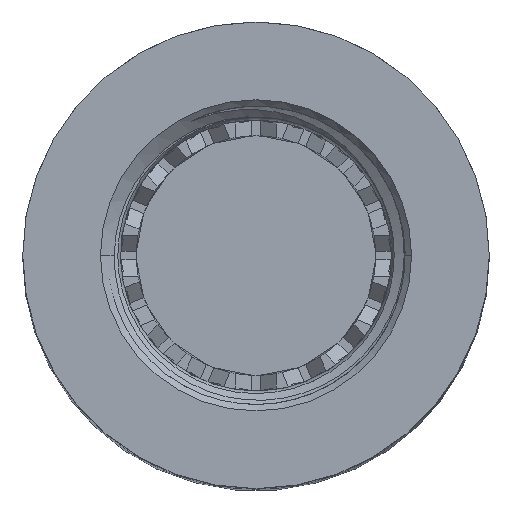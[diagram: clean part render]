
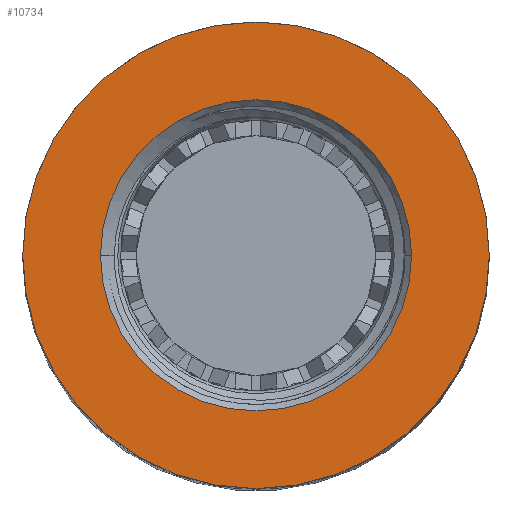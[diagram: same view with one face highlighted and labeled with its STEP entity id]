
A CAD part, top view. The second image highlights one B-rep face of the part: STEP entity #10734.
In plain terms, the highlighted planar face has unit normal (0, 0, 1).
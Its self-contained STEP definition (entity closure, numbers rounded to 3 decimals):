
#700 = PLANE ( 'NONE',  #2339 ) ;
#718 = CARTESIAN_POINT ( 'NONE',  ( 0., 0., 5.664 ) ) ;
#923 = ORIENTED_EDGE ( 'NONE', *, *, #6528, .F. ) ;
#1429 = CARTESIAN_POINT ( 'NONE',  ( 0., 0., 5.664 ) ) ;
#2224 = CIRCLE ( 'NONE', #10625, 7.747 ) ;
#2339 = AXIS2_PLACEMENT_3D ( 'NONE', #4613, #4547, #8269 ) ;
#2927 = CARTESIAN_POINT ( 'NONE',  ( 0., 0., 5.664 ) ) ;
#3437 = EDGE_CURVE ( 'NONE', #7195, #11660, #2224, .T. ) ;
#3657 = DIRECTION ( 'NONE',  ( 0., 0., -1. ) ) ;
#4099 = AXIS2_PLACEMENT_3D ( 'NONE', #4706, #6403, #4639 ) ;
#4177 = CARTESIAN_POINT ( 'NONE',  ( -7.747, 0., 5.664 ) ) ;
#4547 = DIRECTION ( 'NONE',  ( 0., 0., 1. ) ) ;
#4613 = CARTESIAN_POINT ( 'NONE',  ( 11.621, 0., 5.664 ) ) ;
#4639 = DIRECTION ( 'NONE',  ( 1., 0., 0. ) ) ;
#4706 = CARTESIAN_POINT ( 'NONE',  ( 0., 0., 5.664 ) ) ;
#5407 = FACE_BOUND ( 'NONE', #8366, .T. ) ;
#5620 = AXIS2_PLACEMENT_3D ( 'NONE', #1429, #8643, #11528 ) ;
#5767 = VERTEX_POINT ( 'NONE', #8027 ) ;
#5882 = VERTEX_POINT ( 'NONE', #7475 ) ;
#6150 = ORIENTED_EDGE ( 'NONE', *, *, #10566, .F. ) ;
#6403 = DIRECTION ( 'NONE',  ( 0., 0., -1. ) ) ;
#6528 = EDGE_CURVE ( 'NONE', #5882, #5767, #6583, .T. ) ;
#6583 = CIRCLE ( 'NONE', #5620, 11.621 ) ;
#6820 = EDGE_LOOP ( 'NONE', ( #923, #6150 ) ) ;
#7048 = ORIENTED_EDGE ( 'NONE', *, *, #3437, .T. ) ;
#7195 = VERTEX_POINT ( 'NONE', #8938 ) ;
#7475 = CARTESIAN_POINT ( 'NONE',  ( 11.621, 0., 5.664 ) ) ;
#7990 = DIRECTION ( 'NONE',  ( 0., 0., -1. ) ) ;
#8027 = CARTESIAN_POINT ( 'NONE',  ( -11.621, 0., 5.664 ) ) ;
#8269 = DIRECTION ( 'NONE',  ( -1., 0., 0. ) ) ;
#8366 = EDGE_LOOP ( 'NONE', ( #7048, #10799 ) ) ;
#8407 = EDGE_CURVE ( 'NONE', #11660, #7195, #10750, .T. ) ;
#8643 = DIRECTION ( 'NONE',  ( 0., 0., -1. ) ) ;
#8938 = CARTESIAN_POINT ( 'NONE',  ( 7.747, 0., 5.664 ) ) ;
#9748 = CIRCLE ( 'NONE', #11710, 11.621 ) ;
#10181 = FACE_OUTER_BOUND ( 'NONE', #6820, .T. ) ;
#10566 = EDGE_CURVE ( 'NONE', #5767, #5882, #9748, .T. ) ;
#10625 = AXIS2_PLACEMENT_3D ( 'NONE', #718, #7990, #11853 ) ;
#10734 = ADVANCED_FACE ( 'NONE', ( #5407, #10181 ), #700, .T. ) ;
#10750 = CIRCLE ( 'NONE', #4099, 7.747 ) ;
#10799 = ORIENTED_EDGE ( 'NONE', *, *, #8407, .T. ) ;
#11068 = DIRECTION ( 'NONE',  ( 1., 0., 0. ) ) ;
#11528 = DIRECTION ( 'NONE',  ( 1., 0., 0. ) ) ;
#11660 = VERTEX_POINT ( 'NONE', #4177 ) ;
#11710 = AXIS2_PLACEMENT_3D ( 'NONE', #2927, #3657, #11068 ) ;
#11853 = DIRECTION ( 'NONE',  ( 1., 0., 0. ) ) ;
